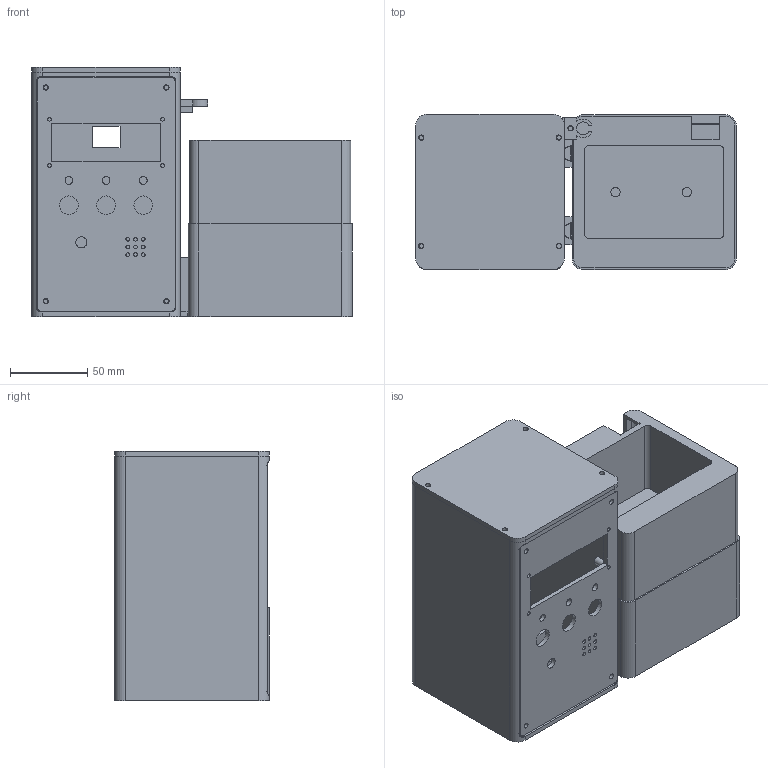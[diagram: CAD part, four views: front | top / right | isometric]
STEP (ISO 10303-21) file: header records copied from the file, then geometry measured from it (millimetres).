
FILE_DESCRIPTION(('Open CASCADE Model'),'2;1');
FILE_NAME('Open CASCADE Shape Model','2026-09-11T20:14:37',('Author'),( 'Open CASCADE'),'Open CASCADE STEP processor 7.9','Open CASCADE 7.9' ,'Unknown');
FILE_SCHEMA(('AUTOMOTIVE_DESIGN { 1 0 10303 214 1 1 1 1 }'));
Length unit declared in the file: millimetre
Products named in the file (8): Open CASCADE STEP translator 7.9 8; Open CASCADE STEP translator 7.9 8.1; Open CASCADE STEP translator 7.9 8.2; Open CASCADE STEP translator 7.9 8.3; Open CASCADE STEP translator 7.9 8.4; Open CASCADE STEP translator 7.9 8.5; Open CASCADE STEP translator 7.9 8.6; Open CASCADE STEP translator 7.9 8.7
Assembly tree (7 placements, depth 2):
  Open CASCADE STEP translator 7.9 8
    Open CASCADE STEP translator 7.9 8.1
    Open CASCADE STEP translator 7.9 8.2
    Open CASCADE STEP translator 7.9 8.3
    Open CASCADE STEP translator 7.9 8.4
    Open CASCADE STEP translator 7.9 8.5
    Open CASCADE STEP translator 7.9 8.6
    Open CASCADE STEP translator 7.9 8.7
Bounding box: 207 x 100 x 161 mm (x, y, z)
Volume: 729927.8 mm3; surface area: 330713.9 mm2
Topology: 7 solids, 7 shells, 286 faces, 735 edges, 490 vertices
Faces by surface type: plane 173, cylinder 113
Full cylindrical faces by diameter (mm): 2.4 x13, 2.8 x15, 3.4 x11, 5 x7, 6 x2, 7 x1, 8 x6, 12 x3
Entity records: 18886 total; most frequent: CARTESIAN_POINT 3786, DIRECTION 2799, LINE 1564, VECTOR 1564, ORIENTED_EDGE 1470, PCURVE 1470, DEFINITIONAL_REPRESENTATION 1470, EDGE_CURVE 735
